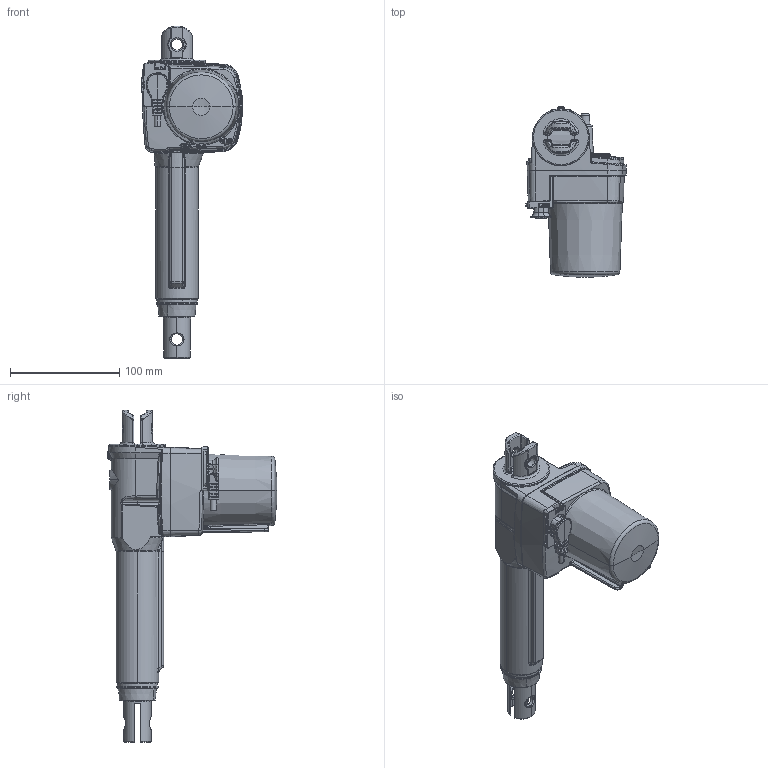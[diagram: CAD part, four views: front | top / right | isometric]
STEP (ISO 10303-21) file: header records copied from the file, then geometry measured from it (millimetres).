
FILE_DESCRIPTION((''),'2;1');
FILE_NAME('0244108_ASM','2023-08-18T11:20:49',('ti'),(''),'CREO PARAMETRIC BY PTC INC, 2022024','CREO PARAMETRIC BY PTC INC, 2022024','');
FILE_SCHEMA(('AUTOMOTIVE_DESIGN { 1 0 10303 214 1 1 1 1 }'));
Length unit declared in the file: millimetre
Products named in the file (7): SHELL-0244108-BODY; SHELL-0241347; SHELL-OUTER-TUBE; SHELL-3430014; SHELL-0241340; SHELL-0273018; 0244108_ASM
Assembly tree (6 placements, depth 2):
  0244108_ASM
    SHELL-0244108-BODY
    SHELL-0241347
    SHELL-OUTER-TUBE
    SHELL-3430014
    SHELL-0241340
    SHELL-0273018
Bounding box: 92.38 x 155.65 x 304 mm (x, y, z)
Volume: 1034597.4 mm3; surface area: 118993.2 mm2
Topology: 6 solids, 7 shells, 1893 faces, 4569 edges, 2706 vertices
Faces by surface type: cylinder 526, bspline 429, torus 390, plane 332, cone 128, sphere 80, extrusion 6, revolution 2
Entity records: 96446 total; most frequent: CARTESIAN_POINT 46514, ORIENTED_EDGE 9122, DIRECTION 8294, EDGE_CURVE 4561, AXIS2_PLACEMENT_3D 3485, VERTEX_POINT 2706, PRESENTATION_STYLE_ASSIGNMENT 2190, STYLED_ITEM 2115
